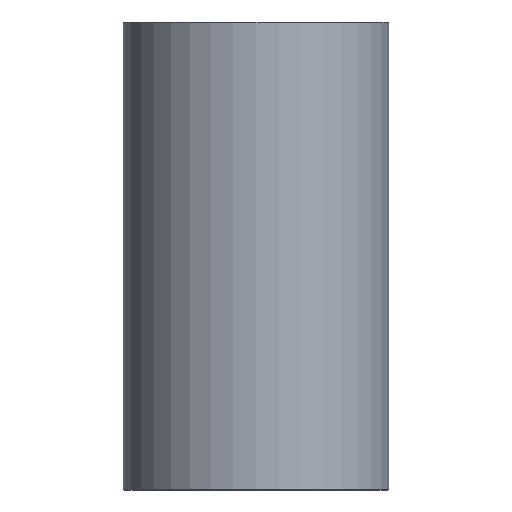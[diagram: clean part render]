
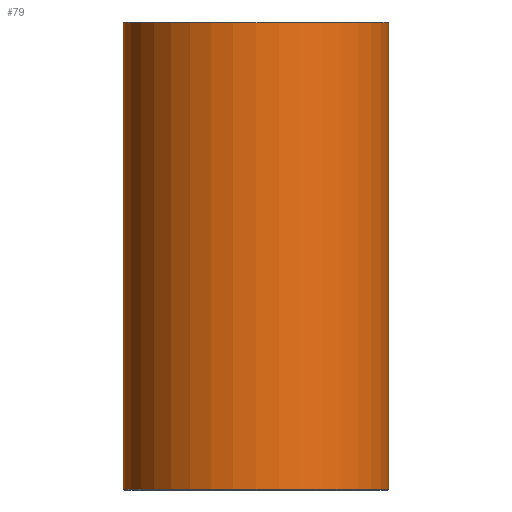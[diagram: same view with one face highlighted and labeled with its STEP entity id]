
A CAD part, front view. The second image highlights one B-rep face of the part: STEP entity #79.
In plain terms, the highlighted cylindrical face has radius 34 mm (diameter 68 mm), a full revolution.
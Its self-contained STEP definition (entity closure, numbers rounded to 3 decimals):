
#79=ADVANCED_FACE('',(#96,#97),#98,.T.);
#96=FACE_OUTER_BOUND('',#120,.T.);
#97=FACE_OUTER_BOUND('',#121,.T.);
#98=CYLINDRICAL_SURFACE('',#122,34.0);
#120=EDGE_LOOP('',(#152));
#121=EDGE_LOOP('',(#153));
#122=AXIS2_PLACEMENT_3D('',#154,#155,#156);
#152=ORIENTED_EDGE('',*,*,#178,.T.);
#153=ORIENTED_EDGE('',*,*,#177,.T.);
#154=CARTESIAN_POINT('',(0.0,0.0,120.0));
#155=DIRECTION('',(0.0,0.0,-1.0));
#156=DIRECTION('',(-1.0,0.0,0.0));
#177=EDGE_CURVE('',#190,#190,#191,.T.);
#178=EDGE_CURVE('',#192,#192,#193,.F.);
#190=VERTEX_POINT('',#206);
#191=CIRCLE('',#207,34.0);
#192=VERTEX_POINT('',#208);
#193=CIRCLE('',#209,34.0);
#206=CARTESIAN_POINT('',(34.0,0.0,0.2));
#207=AXIS2_PLACEMENT_3D('',#227,#228,#229);
#208=CARTESIAN_POINT('',(34.0,0.,119.8));
#209=AXIS2_PLACEMENT_3D('',#230,#231,#232);
#227=CARTESIAN_POINT('',(0.0,0.0,0.2));
#228=DIRECTION('',(0.0,0.0,1.0));
#229=DIRECTION('',(1.0,0.0,0.0));
#230=CARTESIAN_POINT('',(0.0,0.0,119.8));
#231=DIRECTION('',(0.0,0.0,1.0));
#232=DIRECTION('',(1.0,0.0,0.0));
